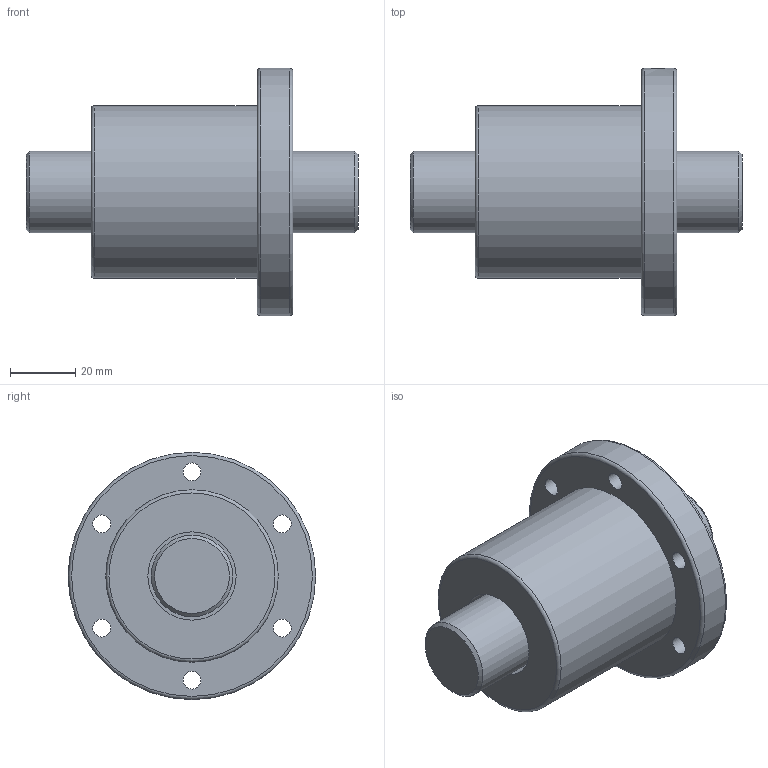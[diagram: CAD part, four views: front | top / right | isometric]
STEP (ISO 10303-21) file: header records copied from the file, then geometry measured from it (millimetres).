
FILE_DESCRIPTION(/* description */ ('Unknown','CAx-IF Rec.Pracs.---Representation and Presentation of Product Manufacturing Information (PMI)---4.0---2014-10-13','CAx-IF Rec.Pracs.---3D Tessellated Geometry---0.4---2014-09-14','2;1'),/* implementation_level */ '2;1');
FILE_NAME(/* name */ 'SFV02506-4.8',/* time_stamp */ '2020-12-08T10:29:51+08:00',/* author */ ('Unknown'),/* organization */ ('Unknown'),/* preprocessor_version */ 'ST-DEVELOPER v16.7',/* originating_system */ 'Solid Edge',/* authorisation */ 'Unknown');
FILE_SCHEMA (('AP242_MANAGED_MODEL_BASED_3D_ENGINEERING_MIM_LF { 1 0 10303 442 1 1 4 }'));
Length unit declared in the file: millimetre
Products named in the file (1): SFV02506-4.8
Bounding box: 102 x 76 x 76 mm (x, y, z)
Volume: 173493 mm3; surface area: 33865.8 mm2
Topology: 1 solids, 1 shells, 43 faces, 87 edges, 57 vertices
Faces by surface type: cylinder 21, plane 14, torus 3, cone 3, bspline 2
Full cylindrical faces by diameter (mm): 4 x1, 4.917 x1, 5.5 x6, 9.5 x6, 25 x2, 27.1 x1, 53 x1, 76 x1
Entity records: 3117 total; most frequent: CARTESIAN_POINT 2248, DIRECTION 180, ORIENTED_EDGE 110, EDGE_LOOP 91, FACE_BOUND 91, AXIS2_PLACEMENT_3D 91, EDGE_CURVE 55, VERTEX_POINT 50
